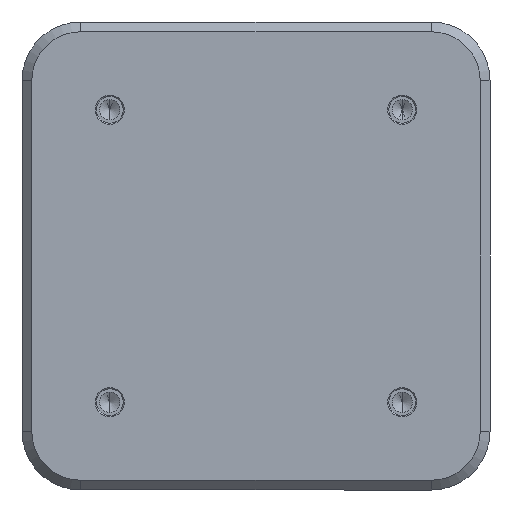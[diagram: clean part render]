
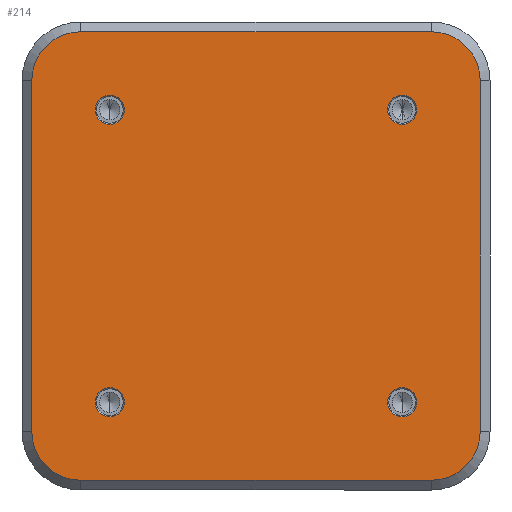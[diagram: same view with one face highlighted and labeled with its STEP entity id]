
A CAD part, front view. The second image highlights one B-rep face of the part: STEP entity #214.
In plain terms, the highlighted planar face has unit normal (0, -1, 0).
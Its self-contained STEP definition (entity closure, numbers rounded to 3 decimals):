
#9 = CIRCLE ( 'NONE', #1640, 10. ) ;
#16 = LINE ( 'NONE', #194, #1274 ) ;
#60 = EDGE_CURVE ( 'NONE', #77, #615, #1195, .T. ) ;
#65 = EDGE_CURVE ( 'NONE', #426, #1138, #1291, .T. ) ;
#77 = VERTEX_POINT ( 'NONE', #1486 ) ;
#103 = CIRCLE ( 'NONE', #1700, 10. ) ;
#124 = VERTEX_POINT ( 'NONE', #1414 ) ;
#126 = CIRCLE ( 'NONE', #1501, 3. ) ;
#155 = ORIENTED_EDGE ( 'NONE', *, *, #60, .T. ) ;
#173 = CIRCLE ( 'NONE', #1494, 3. ) ;
#175 = CARTESIAN_POINT ( 'NONE',  ( -30., 0., 27. ) ) ;
#179 = DIRECTION ( 'NONE',  ( 0., 0., 1. ) ) ;
#182 = DIRECTION ( 'NONE',  ( 0., 1., 0. ) ) ;
#185 = CARTESIAN_POINT ( 'NONE',  ( 30., 0., 30. ) ) ;
#194 = CARTESIAN_POINT ( 'NONE',  ( -48., 0., 46. ) ) ;
#196 = DIRECTION ( 'NONE',  ( -1., 0., 0. ) ) ;
#197 = VERTEX_POINT ( 'NONE', #1368 ) ;
#201 = ORIENTED_EDGE ( 'NONE', *, *, #980, .T. ) ;
#213 = ORIENTED_EDGE ( 'NONE', *, *, #1007, .T. ) ;
#214 = ADVANCED_FACE ( 'NONE', ( #1681, #1215, #287, #292, #1010 ), #1347, .F. ) ;
#237 = DIRECTION ( 'NONE',  ( 0., 0., 1. ) ) ;
#243 = DIRECTION ( 'NONE',  ( 0., 1., 0. ) ) ;
#245 = CARTESIAN_POINT ( 'NONE',  ( -30., 0., 30. ) ) ;
#258 = VERTEX_POINT ( 'NONE', #1287 ) ;
#273 = DIRECTION ( 'NONE',  ( 0., 0., 1. ) ) ;
#275 = DIRECTION ( 'NONE',  ( 0., 1., 0. ) ) ;
#278 = CARTESIAN_POINT ( 'NONE',  ( -30., 0., 30. ) ) ;
#282 = ORIENTED_EDGE ( 'NONE', *, *, #1236, .T. ) ;
#287 = FACE_BOUND ( 'NONE', #1661, .T. ) ;
#292 = FACE_BOUND ( 'NONE', #734, .T. ) ;
#306 = DIRECTION ( 'NONE',  ( 0., 0., 1. ) ) ;
#308 = DIRECTION ( 'NONE',  ( 0., 1., 0. ) ) ;
#310 = CARTESIAN_POINT ( 'NONE',  ( 30., 0., -30. ) ) ;
#319 = ORIENTED_EDGE ( 'NONE', *, *, #715, .T. ) ;
#321 = LINE ( 'NONE', #663, #1013 ) ;
#333 = ORIENTED_EDGE ( 'NONE', *, *, #1534, .T. ) ;
#368 = DIRECTION ( 'NONE',  ( 0., 0., 1. ) ) ;
#370 = DIRECTION ( 'NONE',  ( 0., -1., 0. ) ) ;
#372 = CARTESIAN_POINT ( 'NONE',  ( 36., 0., 36. ) ) ;
#387 = EDGE_CURVE ( 'NONE', #124, #420, #103, .T. ) ;
#419 = CARTESIAN_POINT ( 'NONE',  ( 30., 0., -33. ) ) ;
#420 = VERTEX_POINT ( 'NONE', #1145 ) ;
#426 = VERTEX_POINT ( 'NONE', #1140 ) ;
#441 = DIRECTION ( 'NONE',  ( 0., 0., 1. ) ) ;
#442 = DIRECTION ( 'NONE',  ( 0., -1., 0. ) ) ;
#444 = CARTESIAN_POINT ( 'NONE',  ( 36., 0., -36. ) ) ;
#449 = ORIENTED_EDGE ( 'NONE', *, *, #1517, .T. ) ;
#453 = VERTEX_POINT ( 'NONE', #1112 ) ;
#488 = AXIS2_PLACEMENT_3D ( 'NONE', #946, #944, #943 ) ;
#496 = EDGE_LOOP ( 'NONE', ( #834, #333 ) ) ;
#504 = CIRCLE ( 'NONE', #488, 10. ) ;
#547 = LINE ( 'NONE', #894, #1006 ) ;
#561 = DIRECTION ( 'NONE',  ( 0., 0., 1. ) ) ;
#563 = DIRECTION ( 'NONE',  ( 0., 1., 0. ) ) ;
#565 = CARTESIAN_POINT ( 'NONE',  ( -30., 0., -30. ) ) ;
#599 = VERTEX_POINT ( 'NONE', #1017 ) ;
#601 = VERTEX_POINT ( 'NONE', #1021 ) ;
#613 = CARTESIAN_POINT ( 'NONE',  ( 30., 0., -27. ) ) ;
#615 = VERTEX_POINT ( 'NONE', #999 ) ;
#616 = CIRCLE ( 'NONE', #1636, 3. ) ;
#632 = CARTESIAN_POINT ( 'NONE',  ( -30., 0., -33. ) ) ;
#663 = CARTESIAN_POINT ( 'NONE',  ( 46., 0., -48. ) ) ;
#666 = DIRECTION ( 'NONE',  ( 0., 0., 1. ) ) ;
#715 = EDGE_CURVE ( 'NONE', #940, #453, #504, .T. ) ;
#734 = EDGE_LOOP ( 'NONE', ( #1701, #155 ) ) ;
#742 = DIRECTION ( 'NONE',  ( 0., 0., -1. ) ) ;
#743 = DIRECTION ( 'NONE',  ( 0., 0., 1. ) ) ;
#744 = DIRECTION ( 'NONE',  ( 0., 1., 0. ) ) ;
#746 = CARTESIAN_POINT ( 'NONE',  ( 30., 0., -30. ) ) ;
#752 = CARTESIAN_POINT ( 'NONE',  ( -46., 0., -48. ) ) ;
#772 = EDGE_CURVE ( 'NONE', #453, #902, #547, .T. ) ;
#823 = CARTESIAN_POINT ( 'NONE',  ( -46., 0., -36. ) ) ;
#834 = ORIENTED_EDGE ( 'NONE', *, *, #1563, .T. ) ;
#845 = CARTESIAN_POINT ( 'NONE',  ( 36., 0., -46. ) ) ;
#892 = DIRECTION ( 'NONE',  ( 1., 0., 0. ) ) ;
#894 = CARTESIAN_POINT ( 'NONE',  ( -48., 0., -46. ) ) ;
#902 = VERTEX_POINT ( 'NONE', #845 ) ;
#940 = VERTEX_POINT ( 'NONE', #823 ) ;
#943 = DIRECTION ( 'NONE',  ( 0., 0., 1. ) ) ;
#944 = DIRECTION ( 'NONE',  ( 0., -1., 0. ) ) ;
#946 = CARTESIAN_POINT ( 'NONE',  ( -36., 0., -36. ) ) ;
#975 = EDGE_LOOP ( 'NONE', ( #282, #1201 ) ) ;
#979 = CIRCLE ( 'NONE', #1621, 3. ) ;
#980 = EDGE_CURVE ( 'NONE', #1450, #1162, #126, .T. ) ;
#985 = LINE ( 'NONE', #752, #1127 ) ;
#999 = CARTESIAN_POINT ( 'NONE',  ( 30., 0., 27. ) ) ;
#1006 = VECTOR ( 'NONE', #892, 1000. ) ;
#1007 = EDGE_CURVE ( 'NONE', #420, #940, #985, .T. ) ;
#1010 = FACE_BOUND ( 'NONE', #496, .T. ) ;
#1013 = VECTOR ( 'NONE', #666, 1000. ) ;
#1017 = CARTESIAN_POINT ( 'NONE',  ( -30., 0., 33. ) ) ;
#1021 = CARTESIAN_POINT ( 'NONE',  ( 36., 0., 46. ) ) ;
#1028 = ORIENTED_EDGE ( 'NONE', *, *, #387, .T. ) ;
#1112 = CARTESIAN_POINT ( 'NONE',  ( -36., 0., -46. ) ) ;
#1114 = EDGE_CURVE ( 'NONE', #258, #197, #321, .T. ) ;
#1127 = VECTOR ( 'NONE', #742, 1000. ) ;
#1138 = VERTEX_POINT ( 'NONE', #632 ) ;
#1140 = CARTESIAN_POINT ( 'NONE',  ( -30., 0., -27. ) ) ;
#1145 = CARTESIAN_POINT ( 'NONE',  ( -46., 0., 36. ) ) ;
#1162 = VERTEX_POINT ( 'NONE', #613 ) ;
#1163 = ORIENTED_EDGE ( 'NONE', *, *, #1408, .T. ) ;
#1168 = DIRECTION ( 'NONE',  ( 0., 0., 1. ) ) ;
#1169 = DIRECTION ( 'NONE',  ( 0., -1., 0. ) ) ;
#1170 = CARTESIAN_POINT ( 'NONE',  ( -36., 0., 36. ) ) ;
#1195 = CIRCLE ( 'NONE', #1338, 3. ) ;
#1201 = ORIENTED_EDGE ( 'NONE', *, *, #65, .T. ) ;
#1215 = FACE_BOUND ( 'NONE', #975, .T. ) ;
#1220 = AXIS2_PLACEMENT_3D ( 'NONE', #1459, #1455, #1454 ) ;
#1236 = EDGE_CURVE ( 'NONE', #1138, #426, #979, .T. ) ;
#1266 = ORIENTED_EDGE ( 'NONE', *, *, #1114, .T. ) ;
#1274 = VECTOR ( 'NONE', #196, 1000. ) ;
#1283 = AXIS2_PLACEMENT_3D ( 'NONE', #1352, #1360, #1346 ) ;
#1287 = CARTESIAN_POINT ( 'NONE',  ( 46., 0., -36. ) ) ;
#1291 = CIRCLE ( 'NONE', #1220, 3. ) ;
#1337 = AXIS2_PLACEMENT_3D ( 'NONE', #444, #442, #441 ) ;
#1338 = AXIS2_PLACEMENT_3D ( 'NONE', #1471, #1468, #1465 ) ;
#1345 = EDGE_LOOP ( 'NONE', ( #319, #1532, #1163, #1266, #1561, #1694, #1028, #213 ) ) ;
#1346 = DIRECTION ( 'NONE',  ( 0., 0., 1. ) ) ;
#1347 = PLANE ( 'NONE',  #1283 ) ;
#1352 = CARTESIAN_POINT ( 'NONE',  ( -48., 0., -48. ) ) ;
#1360 = DIRECTION ( 'NONE',  ( 0., 1., 0. ) ) ;
#1368 = CARTESIAN_POINT ( 'NONE',  ( 46., 0., 36. ) ) ;
#1408 = EDGE_CURVE ( 'NONE', #902, #258, #1467, .T. ) ;
#1414 = CARTESIAN_POINT ( 'NONE',  ( -36., 0., 46. ) ) ;
#1450 = VERTEX_POINT ( 'NONE', #419 ) ;
#1454 = DIRECTION ( 'NONE',  ( 0., 0., 1. ) ) ;
#1455 = DIRECTION ( 'NONE',  ( 0., 1., 0. ) ) ;
#1459 = CARTESIAN_POINT ( 'NONE',  ( -30., 0., -30. ) ) ;
#1465 = DIRECTION ( 'NONE',  ( 0., 0., 1. ) ) ;
#1467 = CIRCLE ( 'NONE', #1337, 10. ) ;
#1468 = DIRECTION ( 'NONE',  ( 0., 1., 0. ) ) ;
#1471 = CARTESIAN_POINT ( 'NONE',  ( 30., 0., 30. ) ) ;
#1481 = EDGE_CURVE ( 'NONE', #197, #601, #9, .T. ) ;
#1486 = CARTESIAN_POINT ( 'NONE',  ( 30., 0., 33. ) ) ;
#1494 = AXIS2_PLACEMENT_3D ( 'NONE', #185, #182, #179 ) ;
#1501 = AXIS2_PLACEMENT_3D ( 'NONE', #746, #744, #743 ) ;
#1517 = EDGE_CURVE ( 'NONE', #1162, #1450, #1663, .T. ) ;
#1518 = CIRCLE ( 'NONE', #1584, 3. ) ;
#1532 = ORIENTED_EDGE ( 'NONE', *, *, #772, .T. ) ;
#1534 = EDGE_CURVE ( 'NONE', #599, #1645, #616, .T. ) ;
#1561 = ORIENTED_EDGE ( 'NONE', *, *, #1481, .T. ) ;
#1563 = EDGE_CURVE ( 'NONE', #1645, #599, #1518, .T. ) ;
#1584 = AXIS2_PLACEMENT_3D ( 'NONE', #245, #243, #237 ) ;
#1620 = EDGE_CURVE ( 'NONE', #615, #77, #173, .T. ) ;
#1621 = AXIS2_PLACEMENT_3D ( 'NONE', #565, #563, #561 ) ;
#1623 = EDGE_CURVE ( 'NONE', #601, #124, #16, .T. ) ;
#1636 = AXIS2_PLACEMENT_3D ( 'NONE', #278, #275, #273 ) ;
#1640 = AXIS2_PLACEMENT_3D ( 'NONE', #372, #370, #368 ) ;
#1645 = VERTEX_POINT ( 'NONE', #175 ) ;
#1646 = AXIS2_PLACEMENT_3D ( 'NONE', #310, #308, #306 ) ;
#1661 = EDGE_LOOP ( 'NONE', ( #201, #449 ) ) ;
#1663 = CIRCLE ( 'NONE', #1646, 3. ) ;
#1681 = FACE_OUTER_BOUND ( 'NONE', #1345, .T. ) ;
#1694 = ORIENTED_EDGE ( 'NONE', *, *, #1623, .T. ) ;
#1700 = AXIS2_PLACEMENT_3D ( 'NONE', #1170, #1169, #1168 ) ;
#1701 = ORIENTED_EDGE ( 'NONE', *, *, #1620, .T. ) ;
